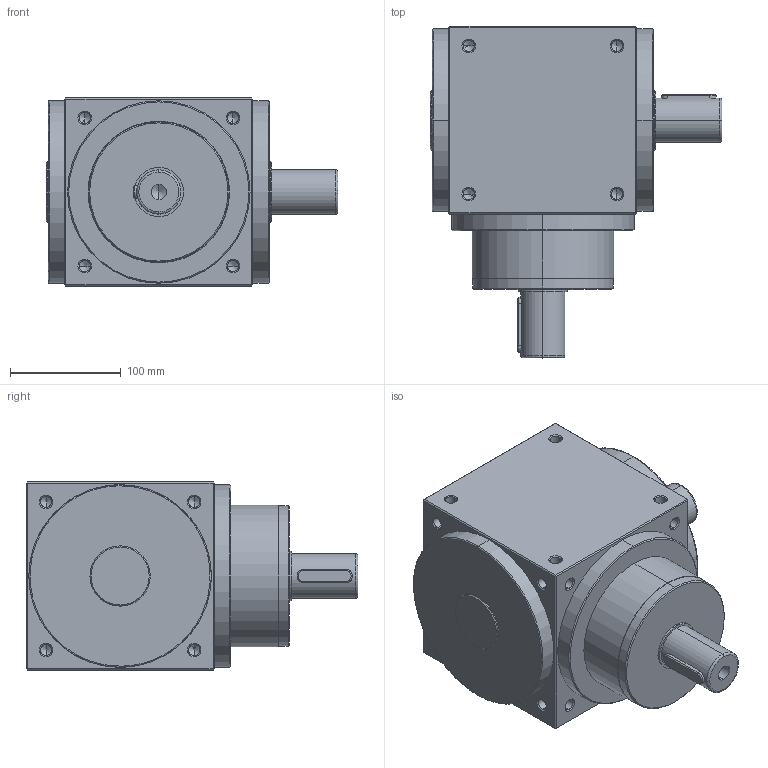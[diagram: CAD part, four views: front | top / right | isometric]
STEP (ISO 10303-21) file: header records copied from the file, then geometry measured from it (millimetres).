
FILE_DESCRIPTION (( 'STEP AP214' ), '1' );
FILE_NAME ('AT170-L-001.STEP', '2020-11-14T02:55:51', ( '微软用户' ), ( '微软中国' ), 'SwSTEP 2.0', 'SolidWorks 2014', '' );
FILE_SCHEMA (( 'AUTOMOTIVE_DESIGN' ));
Length unit declared in the file: millimetre
Products named in the file (2): AT170-L-001
Bounding box: 264 x 300 x 170 mm (x, y, z)
Volume: 6660361.1 mm3; surface area: 250890.7 mm2
Topology: 1 solids, 1 shells, 290 faces, 758 edges, 424 vertices
Faces by surface type: cylinder 124, cone 112, plane 46, bspline 8
Entity records: 11915 total; most frequent: CARTESIAN_POINT 2218, ORIENTED_EDGE 1412, DIRECTION 1332, EDGE_CURVE 706, AXIS2_PLACEMENT_3D 514, VERTEX_POINT 424, EDGE_LOOP 328, VECTOR 304
